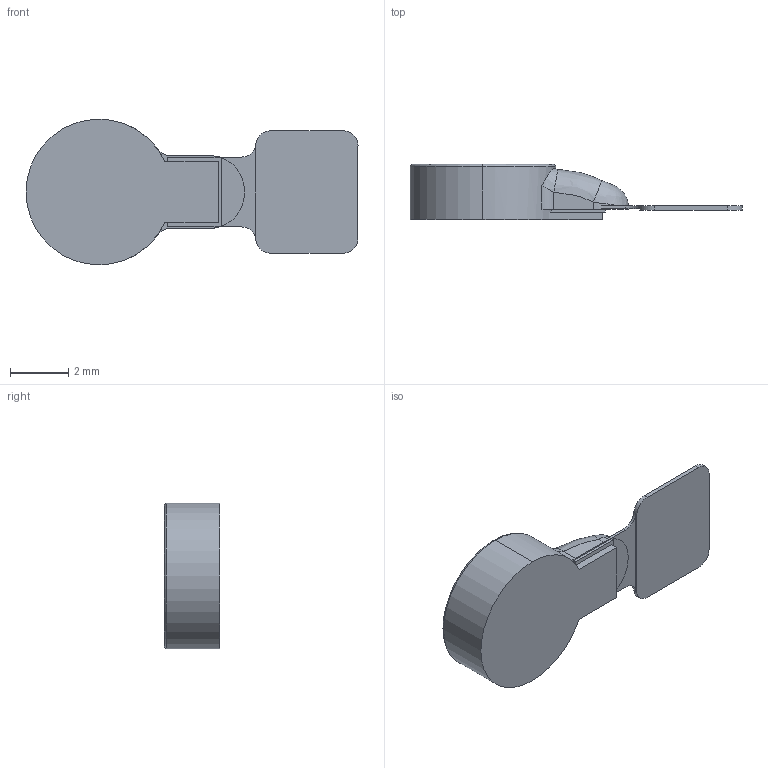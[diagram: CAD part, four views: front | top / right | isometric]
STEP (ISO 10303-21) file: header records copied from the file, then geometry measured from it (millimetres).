
FILE_DESCRIPTION(('FreeCAD Model'),'2;1');
FILE_NAME('Open CASCADE Shape Model','2025-03-04T17:01:12',('Author'),( ''),'Open CASCADE STEP processor 7.6','FreeCAD','Unknown');
FILE_SCHEMA(('AUTOMOTIVE_DESIGN { 1 0 10303 214 1 1 1 1 }'));
Length unit declared in the file: millimetre
Products named in the file (4): VW0518AB001U; VW0518; FPC; ±£ǿUV-1
Assembly tree (3 placements, depth 2):
  VW0518AB001U
    VW0518
    FPC
    ±£ǿUV-1
Bounding box: 11.4 x 1.89 x 5 mm (x, y, z)
Volume: 47.1 mm3; surface area: 141.4 mm2
Topology: 3 solids, 3 shells, 80 faces, 198 edges, 128 vertices
Faces by surface type: plane 46, cylinder 25, bspline 7, torus 2
Entity records: 3043 total; most frequent: CARTESIAN_POINT 788, ORIENTED_EDGE 396, DIRECTION 394, EDGE_CURVE 198, AXIS2_PLACEMENT_3D 134, VERTEX_POINT 128, LINE 126, VECTOR 126
